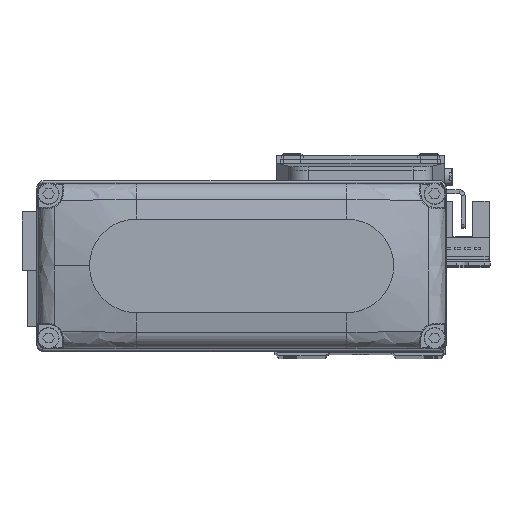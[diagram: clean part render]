
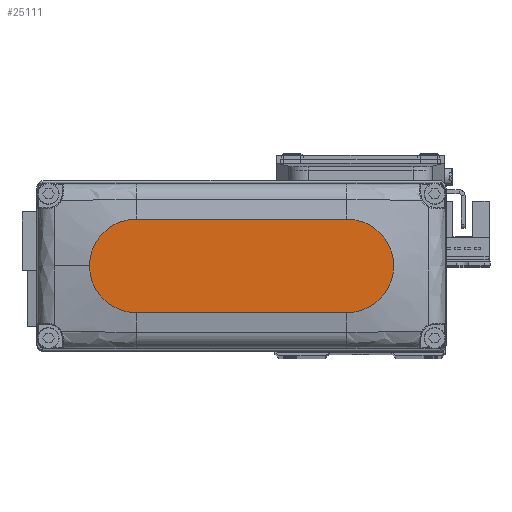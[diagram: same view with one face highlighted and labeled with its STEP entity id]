
A CAD part, top view. The second image highlights one B-rep face of the part: STEP entity #25111.
In plain terms, the highlighted planar face has unit normal (0, 0, 1).
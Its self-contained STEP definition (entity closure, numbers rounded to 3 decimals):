
#673 = EDGE_CURVE ( 'NONE', #37619, #23487, #9170, .T. ) ;
#1095 = CARTESIAN_POINT ( 'NONE',  ( 27., -12., 25. ) ) ;
#1198 = VERTEX_POINT ( 'NONE', #3856 ) ;
#3387 = EDGE_LOOP ( 'NONE', ( #11919, #28526, #30288, #12745, #30127 ) ) ;
#3856 = CARTESIAN_POINT ( 'NONE',  ( 39., 0., 25. ) ) ;
#4020 = DIRECTION ( 'NONE',  ( 0., 0., 1. ) ) ;
#5728 = CARTESIAN_POINT ( 'NONE',  ( -27., 12., 25. ) ) ;
#6066 = AXIS2_PLACEMENT_3D ( 'NONE', #12550, #24764, #36979 ) ;
#6243 = DIRECTION ( 'NONE',  ( 1., 0., 0. ) ) ;
#6532 = VECTOR ( 'NONE', #33578, 1000. ) ;
#7025 = FACE_OUTER_BOUND ( 'NONE', #3387, .T. ) ;
#9170 = LINE ( 'NONE', #21366, #6532 ) ;
#10207 = CIRCLE ( 'NONE', #32568, 12. ) ;
#11837 = DIRECTION ( 'NONE',  ( 1., 0., 0. ) ) ;
#11919 = ORIENTED_EDGE ( 'NONE', *, *, #673, .T. ) ;
#12072 = EDGE_CURVE ( 'NONE', #1198, #37619, #10207, .T. ) ;
#12550 = CARTESIAN_POINT ( 'NONE',  ( 27., 0., 25. ) ) ;
#12745 = ORIENTED_EDGE ( 'NONE', *, *, #27224, .T. ) ;
#12992 = EDGE_CURVE ( 'NONE', #29828, #27694, #14937, .T. ) ;
#14937 = LINE ( 'NONE', #27150, #18568 ) ;
#15006 = AXIS2_PLACEMENT_3D ( 'NONE', #21441, #33658, #6243 ) ;
#16226 = DIRECTION ( 'NONE',  ( 1., 0., 0. ) ) ;
#18568 = VECTOR ( 'NONE', #39364, 1000. ) ;
#19217 = PLANE ( 'NONE',  #26516 ) ;
#19277 = CARTESIAN_POINT ( 'NONE',  ( 27., 12., 25. ) ) ;
#21366 = CARTESIAN_POINT ( 'NONE',  ( -27., 12., 25. ) ) ;
#21441 = CARTESIAN_POINT ( 'NONE',  ( -27., 0., 25. ) ) ;
#23320 = CIRCLE ( 'NONE', #6066, 12. ) ;
#23487 = VERTEX_POINT ( 'NONE', #5728 ) ;
#24764 = DIRECTION ( 'NONE',  ( 0., 0., 1. ) ) ;
#24968 = EDGE_CURVE ( 'NONE', #23487, #29828, #32268, .T. ) ;
#25111 = ADVANCED_FACE ( 'NONE', ( #7025 ), #19217, .T. ) ;
#26516 = AXIS2_PLACEMENT_3D ( 'NONE', #31433, #4020, #16226 ) ;
#27044 = CARTESIAN_POINT ( 'NONE',  ( 27., 0., 25. ) ) ;
#27150 = CARTESIAN_POINT ( 'NONE',  ( -27., -12., 25. ) ) ;
#27224 = EDGE_CURVE ( 'NONE', #27694, #1198, #23320, .T. ) ;
#27694 = VERTEX_POINT ( 'NONE', #1095 ) ;
#28526 = ORIENTED_EDGE ( 'NONE', *, *, #24968, .T. ) ;
#29828 = VERTEX_POINT ( 'NONE', #30100 ) ;
#30100 = CARTESIAN_POINT ( 'NONE',  ( -27., -12., 25. ) ) ;
#30127 = ORIENTED_EDGE ( 'NONE', *, *, #12072, .T. ) ;
#30288 = ORIENTED_EDGE ( 'NONE', *, *, #12992, .T. ) ;
#31433 = CARTESIAN_POINT ( 'NONE',  ( 0., 0., 25. ) ) ;
#32268 = CIRCLE ( 'NONE', #15006, 12. ) ;
#32568 = AXIS2_PLACEMENT_3D ( 'NONE', #27044, #39251, #11837 ) ;
#33578 = DIRECTION ( 'NONE',  ( -1., 0., 0. ) ) ;
#33658 = DIRECTION ( 'NONE',  ( 0., 0., 1. ) ) ;
#36979 = DIRECTION ( 'NONE',  ( 1., 0., 0. ) ) ;
#37619 = VERTEX_POINT ( 'NONE', #19277 ) ;
#39251 = DIRECTION ( 'NONE',  ( 0., 0., 1. ) ) ;
#39364 = DIRECTION ( 'NONE',  ( 1., 0., 0. ) ) ;
